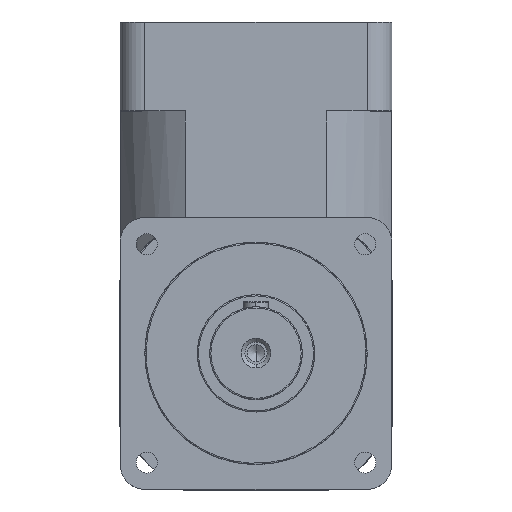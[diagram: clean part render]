
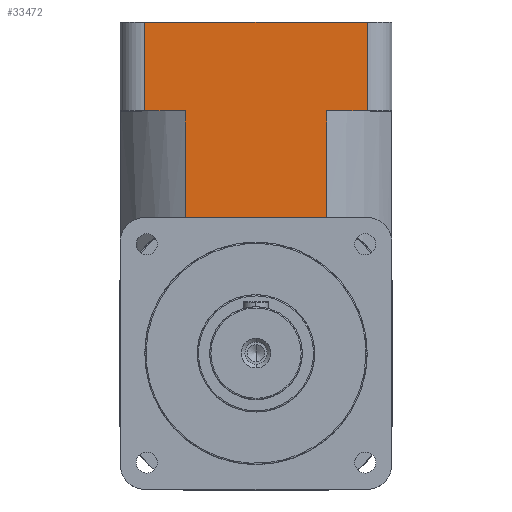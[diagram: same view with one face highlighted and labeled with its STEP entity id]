
A CAD part, top view. The second image highlights one B-rep face of the part: STEP entity #33472.
In plain terms, the highlighted planar face has unit normal (0, 0, 1).
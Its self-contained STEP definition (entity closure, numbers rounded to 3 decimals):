
#298 = VECTOR ( 'NONE', #37696, 1000. ) ;
#653 = DIRECTION ( 'NONE',  ( 1., 0., 0. ) ) ;
#989 = DIRECTION ( 'NONE',  ( 0., 0., 1. ) ) ;
#1207 = EDGE_LOOP ( 'NONE', ( #34729, #31243, #11932, #24026, #8900, #18668, #25060, #19591 ) ) ;
#1255 = LINE ( 'NONE', #2231, #298 ) ;
#1383 = VERTEX_POINT ( 'NONE', #1420 ) ;
#1420 = CARTESIAN_POINT ( 'NONE',  ( -57.236, 110.2, -126. ) ) ;
#2231 = CARTESIAN_POINT ( 'NONE',  ( 0., 196.5, -126. ) ) ;
#2739 = EDGE_CURVE ( 'NONE', #17407, #8723, #22271, .T. ) ;
#3582 = VECTOR ( 'NONE', #18205, 1000. ) ;
#5141 = EDGE_CURVE ( 'NONE', #14943, #15318, #25144, .T. ) ;
#6902 = VECTOR ( 'NONE', #32015, 1000. ) ;
#8071 = AXIS2_PLACEMENT_3D ( 'NONE', #18583, #989, #21573 ) ;
#8127 = VECTOR ( 'NONE', #17488, 1000. ) ;
#8663 = EDGE_CURVE ( 'NONE', #1383, #33810, #15983, .T. ) ;
#8723 = VERTEX_POINT ( 'NONE', #23830 ) ;
#8900 = ORIENTED_EDGE ( 'NONE', *, *, #23352, .T. ) ;
#9878 = VECTOR ( 'NONE', #21120, 1000. ) ;
#10782 = CARTESIAN_POINT ( 'NONE',  ( -90., 196.5, -126. ) ) ;
#11932 = ORIENTED_EDGE ( 'NONE', *, *, #35595, .F. ) ;
#12547 = PLANE ( 'NONE',  #8071 ) ;
#13902 = EDGE_CURVE ( 'NONE', #15318, #1383, #30078, .T. ) ;
#14669 = CARTESIAN_POINT ( 'NONE',  ( 57.236, 196.5, -126. ) ) ;
#14943 = VERTEX_POINT ( 'NONE', #10782 ) ;
#15318 = VERTEX_POINT ( 'NONE', #16469 ) ;
#15983 = LINE ( 'NONE', #29289, #8127 ) ;
#16469 = CARTESIAN_POINT ( 'NONE',  ( -57.236, 196.5, -126. ) ) ;
#17241 = CARTESIAN_POINT ( 'NONE',  ( 57.236, 268.5, -126. ) ) ;
#17286 = CARTESIAN_POINT ( 'NONE',  ( 57.236, 110.2, -126. ) ) ;
#17407 = VERTEX_POINT ( 'NONE', #37717 ) ;
#17488 = DIRECTION ( 'NONE',  ( 1., 0., 0. ) ) ;
#17717 = LINE ( 'NONE', #18137, #9878 ) ;
#18137 = CARTESIAN_POINT ( 'NONE',  ( 90., 780.163, -126. ) ) ;
#18205 = DIRECTION ( 'NONE',  ( 0., -1., 0. ) ) ;
#18583 = CARTESIAN_POINT ( 'NONE',  ( -110., 0., -126. ) ) ;
#18668 = ORIENTED_EDGE ( 'NONE', *, *, #5141, .T. ) ;
#19591 = ORIENTED_EDGE ( 'NONE', *, *, #8663, .T. ) ;
#19839 = CARTESIAN_POINT ( 'NONE',  ( -57.236, 0., -126. ) ) ;
#21120 = DIRECTION ( 'NONE',  ( 0., -1., 0. ) ) ;
#21573 = DIRECTION ( 'NONE',  ( 1., 0., 0. ) ) ;
#22271 = LINE ( 'NONE', #29684, #37080 ) ;
#22607 = EDGE_CURVE ( 'NONE', #31994, #33810, #37407, .T. ) ;
#23352 = EDGE_CURVE ( 'NONE', #17407, #14943, #34979, .T. ) ;
#23830 = CARTESIAN_POINT ( 'NONE',  ( 90., 268.5, -126. ) ) ;
#24026 = ORIENTED_EDGE ( 'NONE', *, *, #2739, .F. ) ;
#24207 = VECTOR ( 'NONE', #653, 1000. ) ;
#25060 = ORIENTED_EDGE ( 'NONE', *, *, #13902, .T. ) ;
#25103 = CARTESIAN_POINT ( 'NONE',  ( 90., 196.5, -126. ) ) ;
#25144 = LINE ( 'NONE', #36132, #24207 ) ;
#28775 = DIRECTION ( 'NONE',  ( 0., -1., 0. ) ) ;
#29134 = VECTOR ( 'NONE', #28775, 1000. ) ;
#29289 = CARTESIAN_POINT ( 'NONE',  ( -110., 110.2, -126. ) ) ;
#29684 = CARTESIAN_POINT ( 'NONE',  ( 0., 268.5, -126. ) ) ;
#30078 = LINE ( 'NONE', #19839, #29134 ) ;
#30131 = EDGE_CURVE ( 'NONE', #31994, #36326, #1255, .T. ) ;
#31243 = ORIENTED_EDGE ( 'NONE', *, *, #30131, .T. ) ;
#31994 = VERTEX_POINT ( 'NONE', #14669 ) ;
#32015 = DIRECTION ( 'NONE',  ( 0., -1., 0. ) ) ;
#32655 = DIRECTION ( 'NONE',  ( 1., 0., 0. ) ) ;
#32989 = CARTESIAN_POINT ( 'NONE',  ( -90., 0., -126. ) ) ;
#33472 = ADVANCED_FACE ( 'NONE', ( #37189 ), #12547, .T. ) ;
#33810 = VERTEX_POINT ( 'NONE', #17286 ) ;
#34729 = ORIENTED_EDGE ( 'NONE', *, *, #22607, .F. ) ;
#34979 = LINE ( 'NONE', #32989, #3582 ) ;
#35595 = EDGE_CURVE ( 'NONE', #8723, #36326, #17717, .T. ) ;
#36132 = CARTESIAN_POINT ( 'NONE',  ( -110., 196.5, -126. ) ) ;
#36326 = VERTEX_POINT ( 'NONE', #25103 ) ;
#37080 = VECTOR ( 'NONE', #32655, 1000. ) ;
#37189 = FACE_OUTER_BOUND ( 'NONE', #1207, .T. ) ;
#37407 = LINE ( 'NONE', #17241, #6902 ) ;
#37696 = DIRECTION ( 'NONE',  ( 1., 0., 0. ) ) ;
#37717 = CARTESIAN_POINT ( 'NONE',  ( -90., 268.5, -126. ) ) ;
